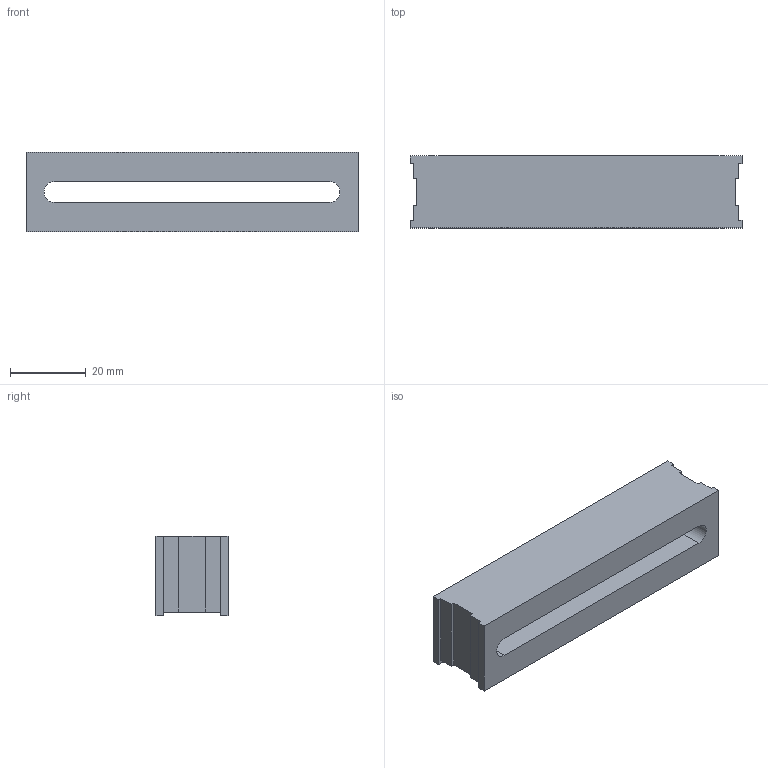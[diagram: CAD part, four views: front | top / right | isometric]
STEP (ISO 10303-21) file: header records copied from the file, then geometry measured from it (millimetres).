
FILE_DESCRIPTION (( 'STEP AP203' ), '1' );
FILE_NAME ('0000004464.STEP', '2014-11-18T14:27:19', ( 'user' ), ( '' ), 'SwSTEP 2.0', 'SolidWorks 2014', '' );
FILE_SCHEMA (( 'CONFIG_CONTROL_DESIGN' ));
Length unit declared in the file: millimetre
Products named in the file (1): 0000004464
Bounding box: 87.5 x 19 x 21 mm (x, y, z)
Volume: 24826.3 mm3; surface area: 10246.7 mm2
Topology: 1 solids, 1 shells, 26 faces, 72 edges, 48 vertices
Faces by surface type: plane 24, cylinder 2
Entity records: 901 total; most frequent: CARTESIAN_POINT 147, ORIENTED_EDGE 144, DIRECTION 130, EDGE_CURVE 72, VECTOR 68, LINE 68, VERTEX_POINT 48, AXIS2_PLACEMENT_3D 31
